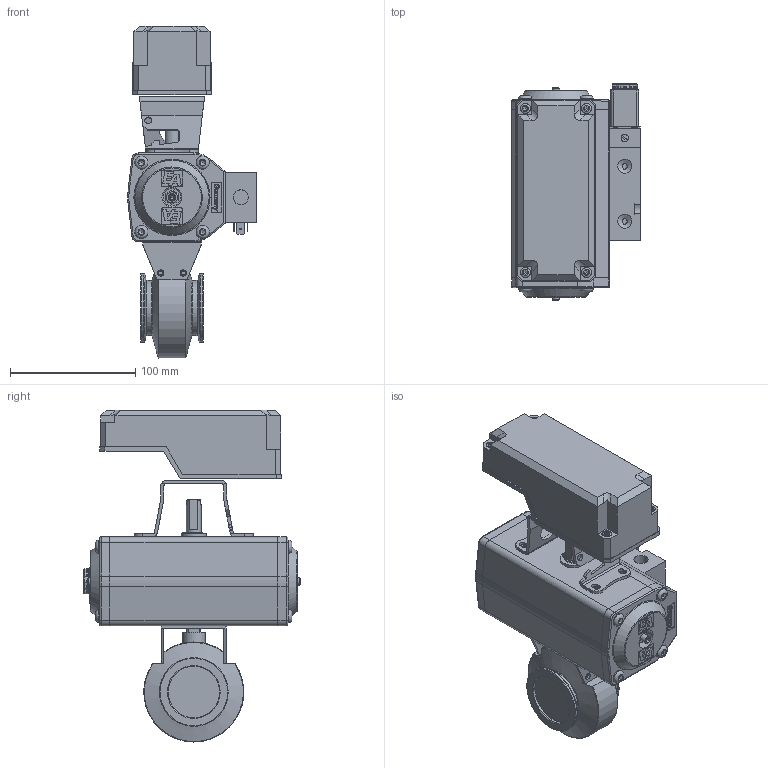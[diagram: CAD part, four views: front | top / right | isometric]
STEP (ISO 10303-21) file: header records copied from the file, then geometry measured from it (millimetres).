
FILE_DESCRIPTION( ( 'Unknown' ), '1' );
FILE_NAME( 'X:/Daten ( aktueller Bestand )/Projekte und Zeichnungen/Solid Edge/STP-Dateien/Schmetterlingsventile, handbetätigt/411442.stp', 'Unknown', ( 'Unknown' ), ( 'Unknown' ), 'PSStep 14.0', 'Unknown', ' ' );
FILE_SCHEMA( ( 'AUTOMOTIVE_DESIGN { 1 0 10303 214 1 1 1 1 }' ) );
Length unit declared in the file: millimetre
Products named in the file (23): ED620552-KUNDEN; EDG55-D; EDR55-E; EDS0200_01_0114; Seegerring A12; DIN EN 24 032  (Regelgewinde) M6_1; DIN 913  (Regelgewinde) M6 x 30; ISO 7380  (Regelgewinde) M6 x 20; DEQ0710_06_0114; Steuervemtil; AN621X07-GEH_US; DIN EN ISO 7046-1  H  (Regelgewinde) M5 x 6 - 4.8 - H; AMS00001X; AMD00001X; Endlagenschalter; DECKEL-RE080303; KONSOL-RE080303; ISO 7380  (Regelgewinde) M5 x 10; SV + Lagemelder + Antrieb; Assem1; Halteblech NW25_NW40_NW50; NW 40 elektrpneum stp; Bolzen NW40 elektrf. Schmetterlingsventil
Assembly tree (38 placements, depth 4):
  Assem1
    Halteblech NW25_NW40_NW50
    NW 40 elektrpneum stp
    Bolzen NW40 elektrf. Schmetterlingsventil
    SV + Lagemelder + Antrieb
      ED620552-KUNDEN
        EDG55-D
        EDR55-E
        EDS0200_01_0114
        Seegerring A12
        DIN EN 24 032  (Regelgewinde) M6_1  x2
        DIN 913  (Regelgewinde) M6 x 30  x2
        ISO 7380  (Regelgewinde) M6 x 20  x8
        DEQ0710_06_0114  x2
      Endlagenschalter
        DECKEL-RE080303
        KONSOL-RE080303
        ISO 7380  (Regelgewinde) M5 x 10  x4
      Steuervemtil
        AN621X07-GEH_US
        DIN EN ISO 7046-1  H  (Regelgewinde) M5 x 6 - 4.8 - H  x4
        AMS00001X
        AMD00001X
Bounding box: 102.97 x 173.15 x 265.47 mm (x, y, z)
Volume: 820440.4 mm3; surface area: 264362.3 mm2
Topology: 34 solids, 34 shells, 1935 faces, 5067 edges, 3302 vertices
Faces by surface type: plane 983, cylinder 499, extrusion 178, cone 172, torus 87, bspline 16
Full cylindrical faces by diameter (mm): 1.5 x4, 1.7 x2, 2.459 x1, 3.242 x8, 3.3 x2, 3.5 x2, 3.9 x1, 4 x1, 4.134 x18, 4.509 x4, 4.917 x15, 5 x13, 5.5 x8, 5.9 x1, 6 x15, 6.2 x2, 6.5 x10, 6.8 x1, 7 x5, 8 x5, 8.566 x2, 9 x2, 9.3 x4, 9.5 x4, 10 x4, 10.5 x9, 10.9 x1, 11.445 x2, 11.8 x4, 12 x5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
Entity records: 51531 total; most frequent: CARTESIAN_POINT 10351, ORIENTED_EDGE 6054, DIRECTION 6015, EDGE_CURVE 3027, VERTEX_POINT 2137, AXIS2_PLACEMENT_3D 2091, VECTOR 1833, EDGE_LOOP 1733
